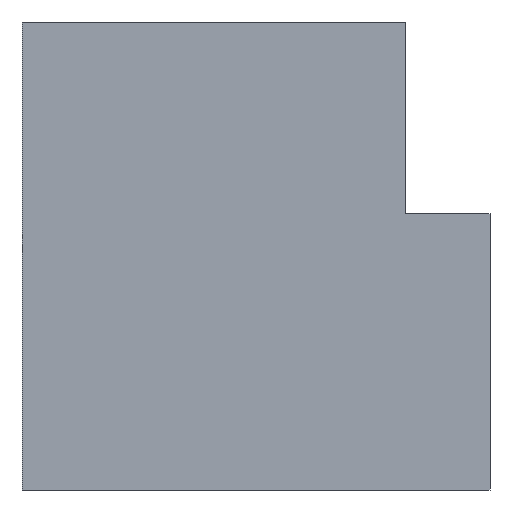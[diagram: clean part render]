
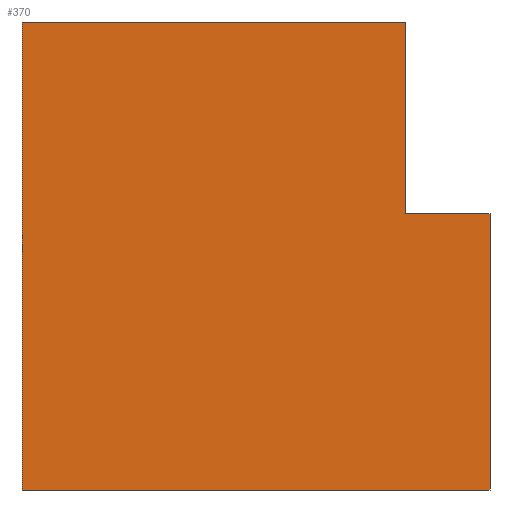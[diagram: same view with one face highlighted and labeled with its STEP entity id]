
A CAD part, left-side view. The second image highlights one B-rep face of the part: STEP entity #370.
In plain terms, the highlighted planar face has unit normal (-1, 0, 0).
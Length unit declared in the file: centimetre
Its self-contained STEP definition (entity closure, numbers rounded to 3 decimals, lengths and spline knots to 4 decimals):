
#5 = VERTEX_POINT ( 'NONE', #394 ) ;
#29 = LINE ( 'NONE', #233, #75 ) ;
#34 = ORIENTED_EDGE ( 'NONE', *, *, #528, .T. ) ;
#74 = CARTESIAN_POINT ( 'NONE',  ( 0., 1000., 1000. ) ) ;
#75 = VECTOR ( 'NONE', #398, 100. ) ;
#77 = CARTESIAN_POINT ( 'NONE',  ( 0., 1000., 1000. ) ) ;
#81 = VERTEX_POINT ( 'NONE', #470 ) ;
#93 = VECTOR ( 'NONE', #198, 100. ) ;
#103 = VERTEX_POINT ( 'NONE', #315 ) ;
#104 = FACE_OUTER_BOUND ( 'NONE', #389, .T. ) ;
#112 = CARTESIAN_POINT ( 'NONE',  ( 0., 181.5567, 589.7631 ) ) ;
#116 = CARTESIAN_POINT ( 'NONE',  ( 0., 0., 1000. ) ) ;
#130 = ORIENTED_EDGE ( 'NONE', *, *, #504, .F. ) ;
#131 = DIRECTION ( 'NONE',  ( 0., -1., 0. ) ) ;
#142 = EDGE_CURVE ( 'NONE', #450, #81, #195, .T. ) ;
#174 = DIRECTION ( 'NONE',  ( 0., 0., -1. ) ) ;
#176 = ORIENTED_EDGE ( 'NONE', *, *, #142, .T. ) ;
#179 = LINE ( 'NONE', #459, #485 ) ;
#195 = LINE ( 'NONE', #475, #467 ) ;
#198 = DIRECTION ( 'NONE',  ( 0., 0., -1. ) ) ;
#233 = CARTESIAN_POINT ( 'NONE',  ( 0., 0., 589.7631 ) ) ;
#250 = LINE ( 'NONE', #77, #93 ) ;
#252 = EDGE_CURVE ( 'NONE', #378, #5, #508, .T. ) ;
#270 = ORIENTED_EDGE ( 'NONE', *, *, #252, .F. ) ;
#285 = DIRECTION ( 'NONE',  ( 0., 0., -1. ) ) ;
#292 = VECTOR ( 'NONE', #131, 100. ) ;
#299 = ORIENTED_EDGE ( 'NONE', *, *, #329, .F. ) ;
#313 = DIRECTION ( 'NONE',  ( 0., 0., -1. ) ) ;
#315 = CARTESIAN_POINT ( 'NONE',  ( 0., 0., 589.7631 ) ) ;
#329 = EDGE_CURVE ( 'NONE', #5, #407, #179, .T. ) ;
#347 = VECTOR ( 'NONE', #285, 100. ) ;
#351 = CARTESIAN_POINT ( 'NONE',  ( 0., 1000., 1000. ) ) ;
#367 = DIRECTION ( 'NONE',  ( 0., -1., 0. ) ) ;
#370 = ADVANCED_FACE ( 'NONE', ( #104 ), #395, .F. ) ;
#371 = AXIS2_PLACEMENT_3D ( 'NONE', #466, #401, #313 ) ;
#377 = EDGE_CURVE ( 'NONE', #407, #103, #29, .T. ) ;
#378 = VERTEX_POINT ( 'NONE', #74 ) ;
#389 = EDGE_LOOP ( 'NONE', ( #130, #487, #299, #270, #34, #176 ) ) ;
#394 = CARTESIAN_POINT ( 'NONE',  ( 0., 181.5567, 1000. ) ) ;
#395 = PLANE ( 'NONE',  #371 ) ;
#398 = DIRECTION ( 'NONE',  ( 0., -1., 0. ) ) ;
#401 = DIRECTION ( 'NONE',  ( 1., 0., 0. ) ) ;
#407 = VERTEX_POINT ( 'NONE', #112 ) ;
#411 = LINE ( 'NONE', #116, #347 ) ;
#450 = VERTEX_POINT ( 'NONE', #471 ) ;
#459 = CARTESIAN_POINT ( 'NONE',  ( 0., 181.5567, 589.7631 ) ) ;
#466 = CARTESIAN_POINT ( 'NONE',  ( 0., 1000., 1000. ) ) ;
#467 = VECTOR ( 'NONE', #367, 100. ) ;
#470 = CARTESIAN_POINT ( 'NONE',  ( 0., 0., 0. ) ) ;
#471 = CARTESIAN_POINT ( 'NONE',  ( 0., 1000., 0. ) ) ;
#475 = CARTESIAN_POINT ( 'NONE',  ( 0., 1000., 0. ) ) ;
#485 = VECTOR ( 'NONE', #174, 100. ) ;
#487 = ORIENTED_EDGE ( 'NONE', *, *, #377, .F. ) ;
#504 = EDGE_CURVE ( 'NONE', #103, #81, #411, .T. ) ;
#508 = LINE ( 'NONE', #351, #292 ) ;
#528 = EDGE_CURVE ( 'NONE', #378, #450, #250, .T. ) ;
